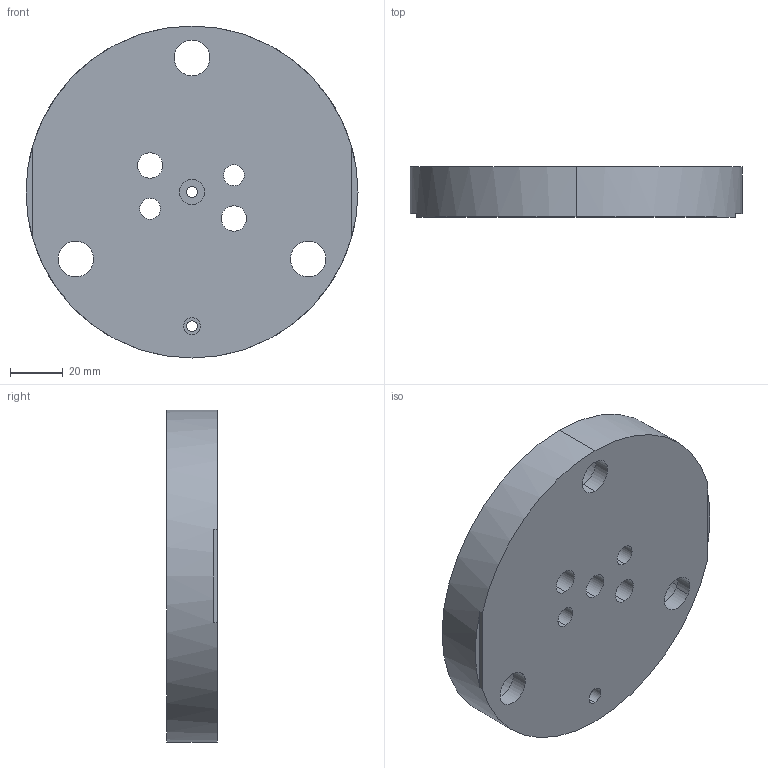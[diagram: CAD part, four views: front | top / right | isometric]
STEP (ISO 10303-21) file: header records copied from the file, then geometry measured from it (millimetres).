
FILE_DESCRIPTION (( 'STEP AP214' ), '1' );
FILE_NAME ('P7534D221.STEP', '2015-08-25T18:37:27', ( '' ), ( '' ), 'SwSTEP 2.0', 'SolidWorks 2015', '' );
FILE_SCHEMA (( 'AUTOMOTIVE_DESIGN' ));
Length unit declared in the file: inch
Products named in the file (1): P7534D221
Bounding box: 125.73 x 19.05 x 125.73 mm (x, y, z)
Volume: 215262.5 mm3; surface area: 36978.9 mm2
Topology: 1 solids, 1 shells, 41 faces, 102 edges, 68 vertices
Faces by surface type: cylinder 30, plane 11
Entity records: 1362 total; most frequent: DIRECTION 250, CARTESIAN_POINT 212, ORIENTED_EDGE 204, AXIS2_PLACEMENT_3D 106, EDGE_CURVE 102, VERTEX_POINT 68, EDGE_LOOP 64, CIRCLE 64
